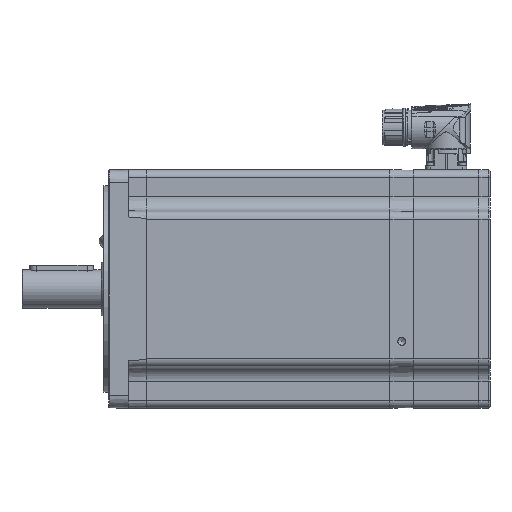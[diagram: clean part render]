
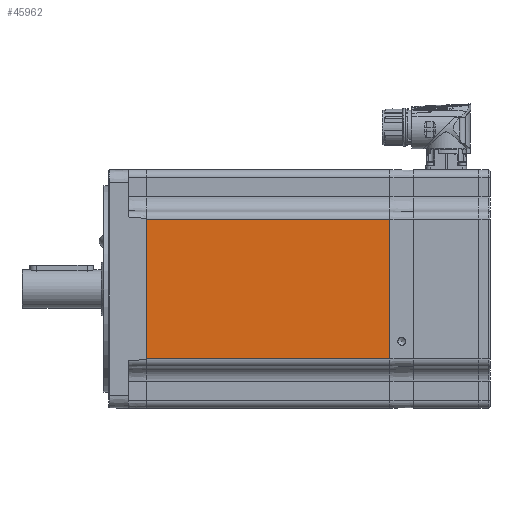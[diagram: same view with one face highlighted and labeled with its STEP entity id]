
A CAD part, left-side view. The second image highlights one B-rep face of the part: STEP entity #45962.
In plain terms, the highlighted planar face has unit normal (-1, 0, 0) as drawn and (0, -1, 0) by its records, which use the part's own axes.
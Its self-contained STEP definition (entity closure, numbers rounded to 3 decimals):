
#1220=LINE('',#62712,#3182);
#1241=LINE('',#62810,#3203);
#1244=LINE('',#62843,#3206);
#1245=LINE('',#62844,#3207);
#3182=VECTOR('',#52617,1000.);
#3203=VECTOR('',#52694,1000.);
#3206=VECTOR('',#52733,1000.);
#3207=VECTOR('',#52734,1000.);
#8102=ORIENTED_EDGE('',*,*,#16682,.F.);
#8103=ORIENTED_EDGE('',*,*,#16743,.T.);
#8104=ORIENTED_EDGE('',*,*,#16730,.T.);
#8105=ORIENTED_EDGE('',*,*,#16744,.T.);
#16682=EDGE_CURVE('',#21166,#21167,#1220,.T.);
#16730=EDGE_CURVE('',#21215,#21214,#1241,.T.);
#16743=EDGE_CURVE('',#21166,#21215,#1244,.T.);
#16744=EDGE_CURVE('',#21214,#21167,#1245,.F.);
#21166=VERTEX_POINT('',#62713);
#21167=VERTEX_POINT('',#62714);
#21214=VERTEX_POINT('',#62809);
#21215=VERTEX_POINT('',#62811);
#25967=EDGE_LOOP('',(#8102,#8103,#8104,#8105));
#28721=FACE_BOUND('',#25967,.T.);
#30975=PLANE('',#48464);
#45962=ADVANCED_FACE('',(#28721),#30975,.T.);
#48464=AXIS2_PLACEMENT_3D('',#62842,#52731,#52732);
#52617=DIRECTION('',(0.,0.,-1.));
#52694=DIRECTION('',(0.,0.,-1.));
#52731=DIRECTION('',(0.,-1.,0.));
#52732=DIRECTION('',(0.,0.,-1.));
#52733=DIRECTION('',(-1.,0.,0.));
#52734=DIRECTION('',(-1.,0.,0.));
#62712=CARTESIAN_POINT('',(-1.,-75.,75.));
#62713=CARTESIAN_POINT('',(-1.,-75.,44.));
#62714=CARTESIAN_POINT('',(-1.,-75.,-44.));
#62809=CARTESIAN_POINT('',(-154.,-75.,-44.));
#62810=CARTESIAN_POINT('',(-154.,-75.,75.));
#62811=CARTESIAN_POINT('',(-154.,-75.,44.));
#62842=CARTESIAN_POINT('',(-300.,-75.,75.));
#62843=CARTESIAN_POINT('',(-300.,-75.,44.));
#62844=CARTESIAN_POINT('',(0.,-75.,-44.));
